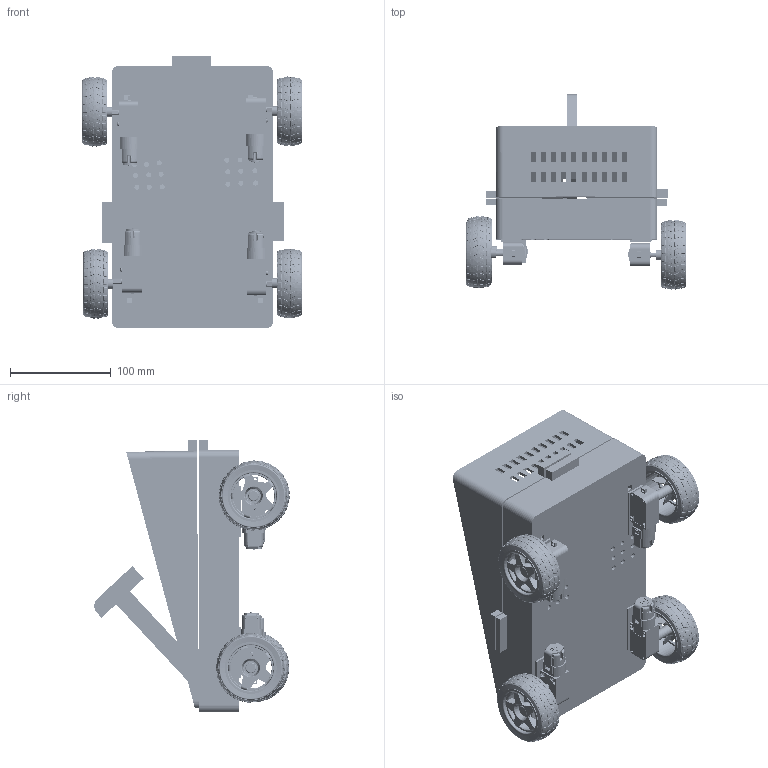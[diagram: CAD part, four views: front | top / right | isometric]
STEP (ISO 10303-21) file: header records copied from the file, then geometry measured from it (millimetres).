
FILE_DESCRIPTION(/* description */ (''),/* implementation_level */ '2;1');
FILE_NAME(/* name */ 'robot with components - FULL.step',/* time_stamp */ '2026-03-04T07:56:25Z',/* author */ (''),/* organization */ (''),/* preprocessor_version */ 'ST-DEVELOPER v20.1',/* originating_system */ 'Autodesk Translation Framework v14.24.0.0',/* authorisation */ '');
FILE_SCHEMA (('AUTOMOTIVE_DESIGN { 1 0 10303 214 3 1 1 }'));
Products named in the file (50): robot with components; lid; base; axe; tt motor; tt motor 2; GearedMotor 3-6V; tt motor 3; tt motor 4; GearedMotor 3-6V_1; Gear box; Engine 3-6V; Strainer; Shaft; pan head cross recess screw_iso_ISO 7045 - M2.5 x 12 - Z - 12S; wheel; wheel 2; wheel 3; wheel 4; Wheel D65x26; servo; servo_1; serv.Part4; serv.Part1_2; serv.Part2; serv.Part1_1; gear_sub1; scrow; gear_sub2; spur gear_iso_ISO - Spur gear 0.25M 10T 20PA 1.75FW ---S10A75H50L1.0N; gear_sub3; spur gear_iso_ISO - Spur gear 0.25M 10T 20PA 6FW ---S10A75H50L1.0N; spur gear_iso_ISO - Spur gear 0.25M 39T 20PA 1FW ---S39A75H50L1.0N; gear_sub4; serv.Part8; wire^servo; DcMotor Emsamblaje Final_Predeterminado; TapaCarcasaDcMotor_Predeterminado; RondanaDcMotor_Predeterminado; CarcasaDcMotor_Predeterminado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
Assembly tree (69 placements, depth 5):
  robot with components
    lid
    base
    axe
    tt motor
      GearedMotor 3-6V_1
        Gear box
        Engine 3-6V
        pan head cross recess screw_iso_ISO 7045 - M2.5 x 12 - Z - 12S  x2
        Strainer
        Shaft
    tt motor 2
      GearedMotor 3-6V
        Gear box
        Engine 3-6V
        pan head cross recess screw_iso_ISO 7045 - M2.5 x 12 - Z - 12S  x2
        Strainer
        Shaft
    tt motor 3
      GearedMotor 3-6V_1
        Gear box
        Engine 3-6V
        pan head cross recess screw_iso_ISO 7045 - M2.5 x 12 - Z - 12S  x2
        Strainer
        Shaft
    tt motor 4
      GearedMotor 3-6V_1
        Gear box
        Engine 3-6V
        pan head cross recess screw_iso_ISO 7045 - M2.5 x 12 - Z - 12S  x2
        Strainer
        Shaft
    wheel
      Wheel D65x26
    wheel 2
      Wheel D65x26
    wheel 3
      Wheel D65x26
    wheel 4
      Wheel D65x26
    servo
      servo_1
        serv.Part4
        serv.Part1_2
        serv.Part2
        serv.Part1_1
        gear_sub1
          scrow
          spur gear_iso_ISO - Spur gear 0.25M 39T 20PA 1FW ---S39A75H50L1.0N
          spur gear_iso_ISO - Spur gear 0.25M 10T 20PA 1.75FW ---S10A75H50L1.0N
        gear_sub2
          spur gear_iso_ISO - Spur gear 0.25M 39T 20PA 1FW ---S39A75H50L1.0N
          spur gear_iso_ISO - Spur gear 0.25M 10T 20PA 1.75FW ---S10A75H50L1.0N
        gear_sub3
          spur gear_iso_ISO - Spur gear 0.25M 10T 20PA 6FW ---S10A75H50L1.0N
          spur gear_iso_ISO - Spur gear 0.25M 39T 20PA 1FW ---S39A75H50L1.0N
        gear_sub4
        serv.Part8
        wire^servo
        DcMotor Emsamblaje Final_Predeterminado
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Bounding box: 218.09 x 193.71 x 270 mm (x, y, z)
Volume: 596061.2 mm3; surface area: 500889.4 mm2
Topology: 211 solids, 249 shells, 12832 faces, 33103 edges, 21434 vertices
Faces by surface type: plane 4360, cylinder 3377, bspline 3008, cone 1672, torus 389, sphere 26
Full cylindrical faces by diameter (mm): 0.151 x42, 0.153 x3, 0.174 x15, 0.178 x6, 0.35 x7, 0.45 x44, 0.682 x1, 0.75 x4, 0.8 x30, 0.829 x40, 0.89 x1, 0.91 x2, 0.956 x1, 1 x11, 1.179 x36, 1.2 x10, 1.25 x4, 1.313 x1, 1.357 x1, 1.5 x18, 1.888 x1, 2 x29, 2.013 x200, 2.25 x2, 2.425 x1, 2.457 x1, 2.5 x428, 2.502 x1, 2.73 x2, 2.798 x1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
Entity records: 340281 total; most frequent: CARTESIAN_POINT 152077, ORIENTED_EDGE 40710, DIRECTION 35653, EDGE_CURVE 20355, VERTEX_POINT 12873, AXIS2_PLACEMENT_3D 12524, LINE 10605, VECTOR 10605
